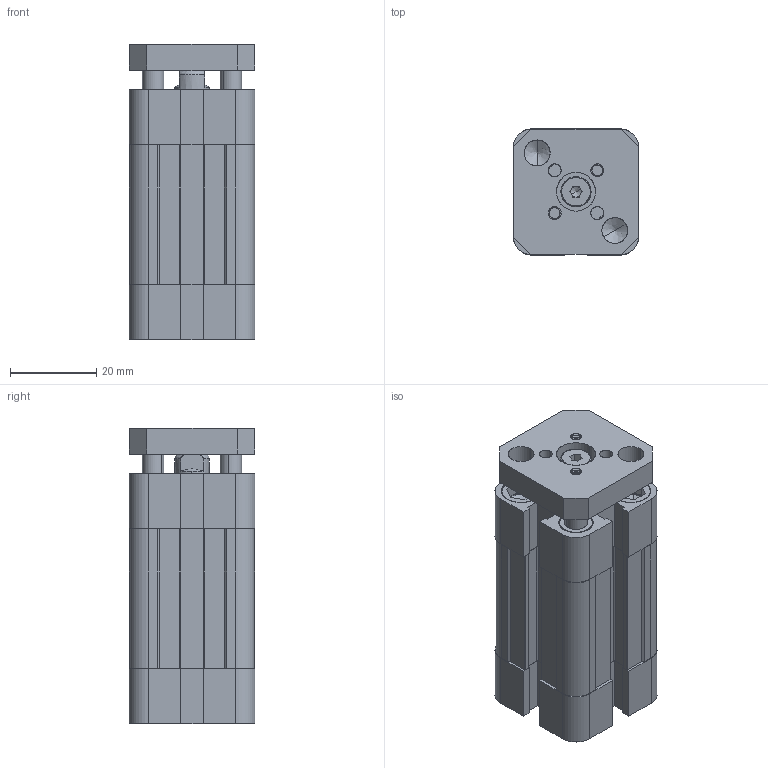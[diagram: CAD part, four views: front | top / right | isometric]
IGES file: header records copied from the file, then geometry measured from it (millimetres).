
Start section: SolidWorks IGES file using analytic representation for surfaces
Global section: file name: c:\CATALO3D\IGS\NSKU016.0020 F AR.IGS; native system: SolidWorks 2009; preprocessor: SolidWorks 2009; author: utente16; date: 100604.141832; units: millimetre
Bounding box: 29.2 x 29.2 x 68.5 mm (x, y, z)
Surface area: 25671.4 mm2 (no closed solid volume)
Topology: 0 solids, 0 shells, 725 faces, 13516 edges, 17004 vertices
Faces by surface type: revolution 390, bspline 335
